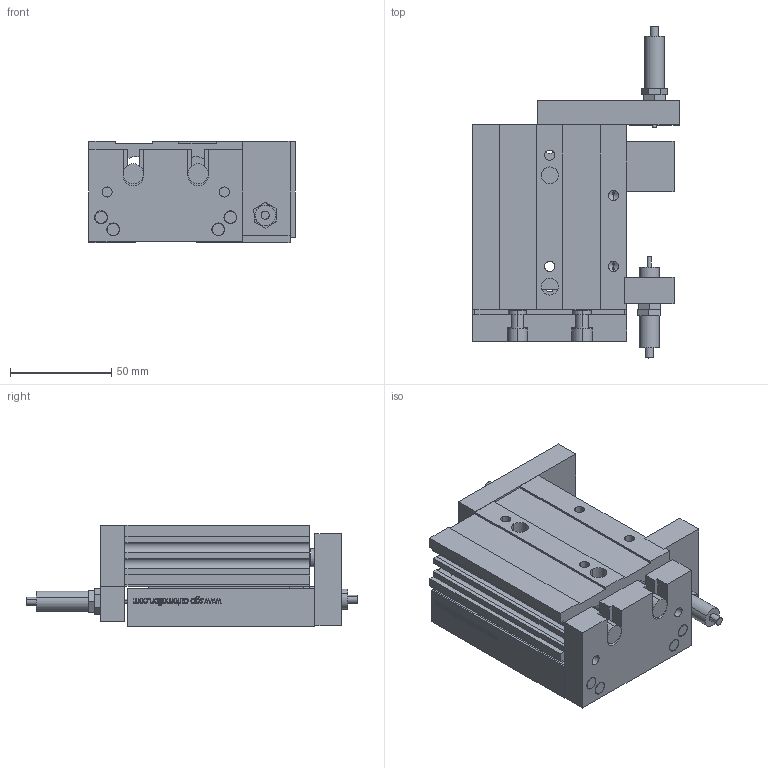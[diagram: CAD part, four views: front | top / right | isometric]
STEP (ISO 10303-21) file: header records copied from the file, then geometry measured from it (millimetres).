
FILE_DESCRIPTION (( 'STEP AP203' ), '1' );
FILE_NAME ('GDX 20-40.STEP', '2013-02-27T12:39:45', ( 'Conseil Régional Haute-Normandie' ), ( 'Conseil Régional Haute-Normandie' ), 'SwSTEP 2.0', 'SolidWorks 2010', '' );
FILE_SCHEMA (( 'CONFIG_CONTROL_DESIGN' ));
Length unit declared in the file: millimetre
Products named in the file (14): Pièce 10 GDX 20-40_Default; Pièce9 GDX 20-10_Default; Pièce4 GDX 20-10_Default; Pièce3 GDX 20-10_Default; GDX 20-40; Pièce11 GDX 20-40_Default; Pièce 12 GDX 20-40_Default; Pièce13 GDX 20-40_Default; Pièce1 GDX 20-10_Default; Pièce2 GDX 20-10_Default; Pièce7 GDX 20-10_Default; Pièce14 GDX 20-10_Default; Pièce16 GDX 20-10_Default; Pièce15 GDX 20-10_Default
Assembly tree (29 placements, depth 2):
  GDX 20-40
    Pièce14 GDX 20-10_Default  x4
    Pièce1 GDX 20-10_Default
    Pièce16 GDX 20-10_Default  x4
    Pièce15 GDX 20-10_Default  x8
    Pièce 12 GDX 20-40_Default
    Pièce 10 GDX 20-40_Default
    Pièce4 GDX 20-10_Default  x2
    Pièce11 GDX 20-40_Default
    Pièce13 GDX 20-40_Default  x2
    Pièce3 GDX 20-10_Default
    Pièce9 GDX 20-10_Default  x2
    Pièce2 GDX 20-10_Default
    Pièce7 GDX 20-10_Default
Bounding box: 102 x 164.28 x 50 mm (x, y, z)
Volume: 357042.4 mm3; surface area: 114640.1 mm2
Topology: 29 solids, 29 shells, 762 faces, 1920 edges, 1246 vertices
Faces by surface type: plane 389, cylinder 200, bspline 133, cone 40
Entity records: 30944 total; most frequent: CARTESIAN_POINT 14228, ORIENTED_EDGE 3216, DIRECTION 2664, EDGE_CURVE 1608, VECTOR 1066, LINE 1066, VERTEX_POINT 1065, AXIS2_PLACEMENT_3D 799
